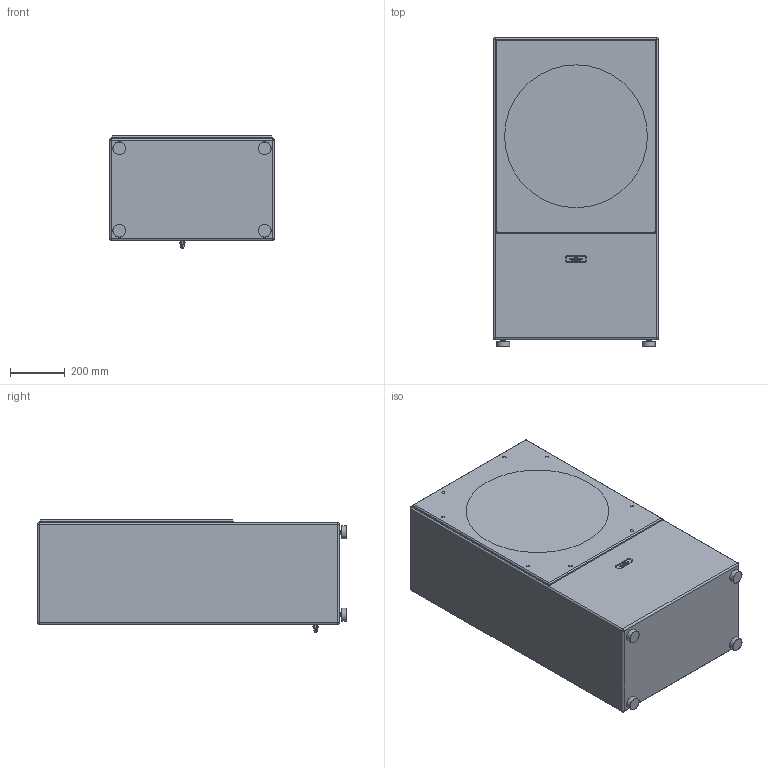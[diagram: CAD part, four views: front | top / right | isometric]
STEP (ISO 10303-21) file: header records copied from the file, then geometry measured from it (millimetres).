
FILE_DESCRIPTION(/* description */ (''),/* implementation_level */ '2;1');
FILE_NAME(/* name */ '2024_3D_THE21 SUB PRO ACTIVE SEALED_Public_SI_Plug.step',/* time_stamp */ '2025-03-28T13:22:34+01:00',/* author */ (''),/* organization */ (''),/* preprocessor_version */ 'ST-DEVELOPER v20.1',/* originating_system */ 'Autodesk Translation Framework v14.4.0.0',/* authorisation */ '');
FILE_SCHEMA (('AUTOMOTIVE_DESIGN { 1 0 10303 214 3 1 1 }'));
Products named in the file (8): The21 SUB PRO sealed MDF AFeld mittel; FEET v1; Foot; Foot_1; Foot_2; Foot_3; COMBINE_GrilleFrame_Cloth; 30010466
Assembly tree (7 placements, depth 3):
  The21 SUB PRO sealed MDF AFeld mittel
    FEET v1
      Foot
      Foot_1
      Foot_2
      Foot_3
    COMBINE_GrilleFrame_Cloth
    30010466
Bounding box: 600 x 1125 x 408.34 mm (x, y, z)
Volume: 235511532.5 mm3; surface area: 3640653.3 mm2
Topology: 7 solids, 26 shells, 2456 faces, 6303 edges, 4117 vertices
Faces by surface type: plane 1165, bspline 694, cylinder 334, cone 136, torus 115, sphere 12
Full cylindrical faces by diameter (mm): 2.38 x3, 3 x6, 3.5 x1, 5 x1, 6.779 x1, 8 x8, 10 x30, 10.3 x10, 12 x24, 12.4 x1, 12.5 x4, 13 x8, 14 x1, 19 x1, 20.3 x1, 21 x1, 23 x1, 27 x1, 28 x1, 29 x1, 33 x1, 34 x1, 47 x4, 166 x1, 497 x1, 512 x1, 548 x1
Entity records: 102767 total; most frequent: CARTESIAN_POINT 45203, ORIENTED_EDGE 12584, DIRECTION 10523, EDGE_CURVE 6292, VERTEX_POINT 4117, AXIS2_PLACEMENT_3D 3521, LINE 3481, VECTOR 3481
